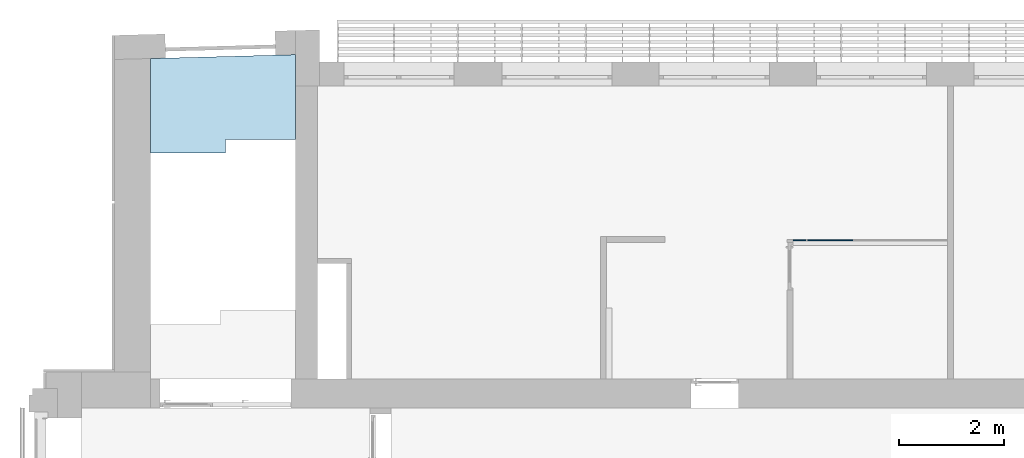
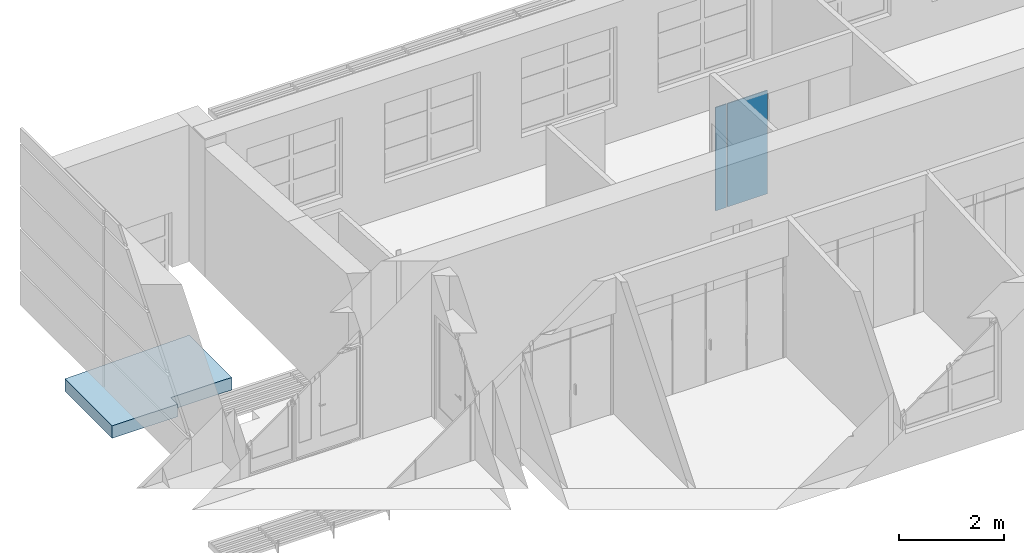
# One storey, part 13 of 46: 2 plates, 1 slab, 1 element without a shape of its own.
"""IFC2X3 building model written with IfcOpenShell, lengths in millimetres."""

from ifc_helpers import new_model, entity, si_unit, converted_unit, derived_unit, direction, frame, origin, origin_2d_with_axis, place, context, subcontext, project, spatial, polyline, rectangle, outline, extrude, source, transform, mapped, material, layer, layer_set, layer_usage, type_object, type_shapes, element, aggregate, save


model = new_model("IFC2X3")

# Units and contexts
model_context = context("Model", 3, precision=0.01, world=origin(), true_north=direction((6.12303176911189e-17, 1.0)))
body_context = subcontext(model_context, "Body", "Model", "MODEL_VIEW")
ifc_project = project(units=[si_unit("LENGTHUNIT", "METRE", prefix="MILLI"), si_unit("AREAUNIT", "SQUARE_METRE"), si_unit("VOLUMEUNIT", "CUBIC_METRE"), converted_unit("PLANEANGLEUNIT", "DEGREE", entity("IfcRatioMeasure", 0.0174532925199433), si_unit("PLANEANGLEUNIT", "RADIAN"), dimensions=[0, 0, 0, 0, 0, 0, 0]), si_unit("MASSUNIT", "GRAM", prefix="KILO"), derived_unit("MASSDENSITYUNIT", [(si_unit("MASSUNIT", "GRAM", prefix="KILO"), 1), (si_unit("LENGTHUNIT", "METRE"), -3)]), si_unit("TIMEUNIT", "SECOND"), si_unit("FREQUENCYUNIT", "HERTZ"), si_unit("THERMODYNAMICTEMPERATUREUNIT", "DEGREE_CELSIUS"), derived_unit("THERMALTRANSMITTANCEUNIT", [(si_unit("MASSUNIT", "GRAM", prefix="KILO"), 1), (si_unit("THERMODYNAMICTEMPERATUREUNIT", "KELVIN"), -1), (si_unit("TIMEUNIT", "SECOND"), -3)]), derived_unit("VOLUMETRICFLOWRATEUNIT", [(si_unit("LENGTHUNIT", "METRE"), 3), (si_unit("TIMEUNIT", "SECOND"), -1)]), si_unit("ELECTRICCURRENTUNIT", "AMPERE"), si_unit("ELECTRICVOLTAGEUNIT", "VOLT"), si_unit("POWERUNIT", "WATT"), si_unit("FORCEUNIT", "NEWTON", prefix="KILO"), si_unit("ILLUMINANCEUNIT", "LUX"), si_unit("LUMINOUSFLUXUNIT", "LUMEN"), si_unit("LUMINOUSINTENSITYUNIT", "CANDELA"), derived_unit("USERDEFINED", [(si_unit("MASSUNIT", "GRAM", prefix="KILO"), -1), (si_unit("LENGTHUNIT", "METRE"), -2), (si_unit("TIMEUNIT", "SECOND"), 3), (si_unit("LUMINOUSFLUXUNIT", "LUMEN"), 1)]), derived_unit("LINEARVELOCITYUNIT", [(si_unit("LENGTHUNIT", "METRE"), 1), (si_unit("TIMEUNIT", "SECOND"), -1)]), si_unit("PRESSUREUNIT", "PASCAL"), derived_unit("USERDEFINED", [(si_unit("LENGTHUNIT", "METRE"), -2), (si_unit("MASSUNIT", "GRAM", prefix="KILO"), 1), (si_unit("TIMEUNIT", "SECOND"), -2)])], contexts=[model_context])

# Site, building, storey
site_placement = place(None, frame((-151.875543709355, 2715.0, 0.0)))
site = spatial("IfcSite", under=ifc_project, at=site_placement, Name="Surface", CompositionType="ELEMENT")
building_placement = place(site_placement, origin())
building = spatial("IfcBuilding", under=site, at=building_placement, CompositionType="ELEMENT")
storey_placement = place(building_placement, frame((0.0, 0.0, 10060.0)))
storey = spatial("IfcBuildingStorey", under=building, at=storey_placement, Name="4 korrus", CompositionType="ELEMENT", Elevation=10060.0000000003)

# Curtain wall, plates
curtain_wall_type = type_object("IfcCurtainWallType", Name="Curtain Wall:Klaassein KLS-28", PredefinedType="NOTDEFINED")
curtain_wall_placement = place(storey_placement, frame((0.0, 0.0, -10060.0)))
curtain_wall = element("IfcCurtainWall", 1, at=curtain_wall_placement, inside=storey, type_object=curtain_wall_type, Name="Curtain Wall:Klaassein KLS-28", ObjectType="Curtain Wall:Klaassein KLS-28")
ifc_material_1 = material(Name="<Unnamed>")
ifc_layer_1 = layer(ifc_material_1, 20.0)
ifc_layer_set_1 = layer_set([ifc_layer_1], Name="Curtain Wall:Klaassein KLS-01")
ifc_layer_usage_1 = layer_usage(ifc_layer_set_1, "AXIS3", "POSITIVE", 0.0)
plate_type_1 = type_object("IfcPlateType", Name="Glazed", PredefinedType="CURTAIN_PANEL", material=ifc_layer_set_1)
shared_shape_1 = source(origin(), body_context, "Body", "SweptSolid", [
    extrude(rectangle(XDim=20.0, YDim=880.000000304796, at=origin_2d_with_axis()), frame((0.0, 0.0, 0.0), z_axis=(0.0, 0.0, 1.0), x_axis=(0.0, 1.0, 0.0)), (0.0, 0.0, 1.0), 2400.0),
])
type_shapes(plate_type_1, [shared_shape_1])
plate_1_placement = place(curtain_wall_placement, frame((14743.8493550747, 9210.0011570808, 10060.0), z_axis=(0.0, 0.0, 1.0), x_axis=(-1.0, 0.0, 0.0)))
plate_1 = element("IfcPlate", 2, at=plate_1_placement, type_object=plate_type_1, material=ifc_layer_usage_1, Name="System Panel:Glazed", ObjectType="Glazed", context=body_context, shape_type="MappedRepresentation", body=[
    mapped(shared_shape_1, transform((0.0, 0.0, 0.0), scale=1.0)),
])
ifc_layer_usage_2 = layer_usage(ifc_layer_set_1, "AXIS3", "POSITIVE", 0.0)
plate_type_2 = type_object("IfcPlateType", Name="Glazed", PredefinedType="CURTAIN_PANEL", material=ifc_layer_set_1)
shared_shape_2 = source(origin(), body_context, "Body", "SweptSolid", [
    extrude(rectangle(XDim=20.0, YDim=244.967346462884, at=origin_2d_with_axis()), frame((0.0, 0.0, 0.0), z_axis=(0.0, 0.0, 1.0), x_axis=(0.0, 1.0, 0.0)), (0.0, 0.0, 1.0), 2400.0),
])
type_shapes(plate_type_2, [shared_shape_2])
plate_2_placement = place(curtain_wall_placement, frame((14161.3656818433, 9210.0011570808, 10060.0), z_axis=(0.0, 0.0, 1.0), x_axis=(-1.0, 0.0, 0.0)))
plate_2 = element("IfcPlate", 3, at=plate_2_placement, type_object=plate_type_2, material=ifc_layer_usage_2, Name="System Panel:Glazed", ObjectType="Glazed", context=body_context, shape_type="MappedRepresentation", body=[
    mapped(shared_shape_2, transform((0.0, 0.0, 0.0), scale=1.0)),
])
aggregate(curtain_wall, [plate_1, plate_2])

# Slab
ifc_material_2 = material(Name="Betoonplaat")
ifc_layer_2 = layer(ifc_material_2, 290.0)
ifc_layer_set_2 = layer_set([ifc_layer_2], Name="Floor:Trepimade6")
ifc_layer_usage_3 = layer_usage(ifc_layer_set_2, "AXIS3", "POSITIVE", 0.0)
slab_placement = place(storey_placement, origin())
element("IfcSlab", 4, at=slab_placement, inside=storey, material=ifc_layer_usage_3, Name="Floor:Trepimade6", ObjectType="Floor:Trepimade6", PredefinedType="FLOOR", context=body_context, shape_type="SweptSolid", body=[
    extrude(outline(polyline([(-696.435755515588, -1400.48583685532), (1102.33120418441, -1400.48583685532), (1176.80712219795, 1370.38709248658), (-443.133407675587, 1370.18727619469), (-443.133407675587, 30.1986525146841), (-696.435755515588, 30.1986525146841), (-696.435755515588, -1400.48583685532)])), frame((3170.48583685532, 11572.4695385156, -1704.17886734), z_axis=(0.0, 0.0, -1.0), x_axis=(0.0, 1.0, 0.0)), (0.0, 0.0, 1.0), 290.0),
])

save(model, "model.ifc")
